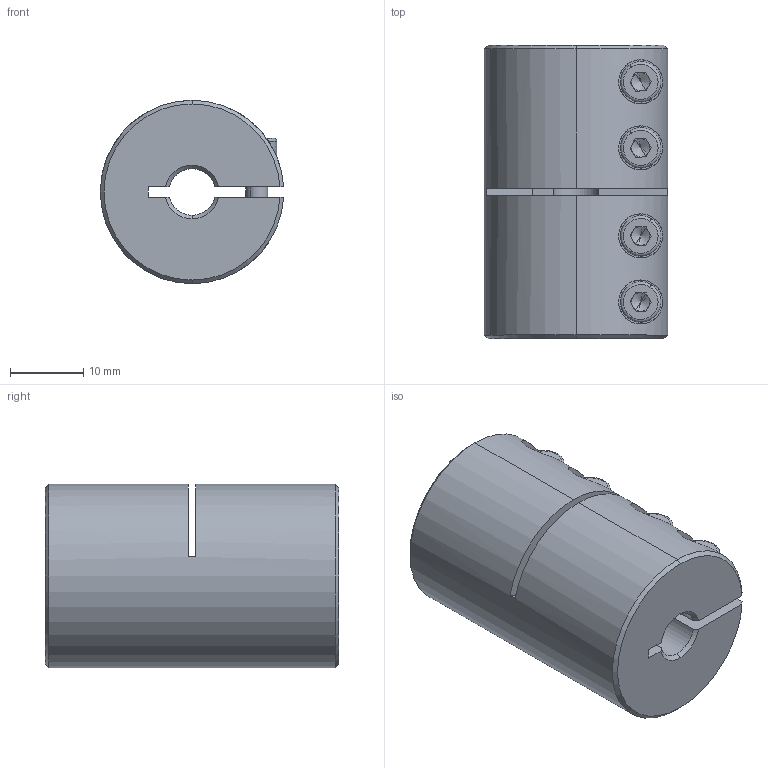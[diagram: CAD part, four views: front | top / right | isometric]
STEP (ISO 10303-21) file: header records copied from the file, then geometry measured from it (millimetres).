
FILE_DESCRIPTION (( 'STEP AP214' ), '1' );
FILE_NAME ('LL-B-D25L40-6.35-6.35½¨Ä£.STEP', '2022-07-21T05:13:05', ( '' ), ( '' ), 'SwSTEP 2.0', 'SolidWorks 2022', '' );
FILE_SCHEMA (( 'AUTOMOTIVE_DESIGN' ));
Length unit declared in the file: millimetre
Products named in the file (1): LL-B-D25L40-6.35-6.35膘耀
Bounding box: 24.98 x 40 x 25 mm (x, y, z)
Volume: 17095.4 mm3; surface area: 7082 mm2
Topology: 1 solids, 1 shells, 173 faces, 440 edges, 277 vertices
Faces by surface type: plane 83, cylinder 62, cone 20, torus 8
Entity records: 5667 total; most frequent: CARTESIAN_POINT 1407, DIRECTION 915, ORIENTED_EDGE 864, EDGE_CURVE 432, AXIS2_PLACEMENT_3D 353, VERTEX_POINT 277, LINE 209, VECTOR 209
